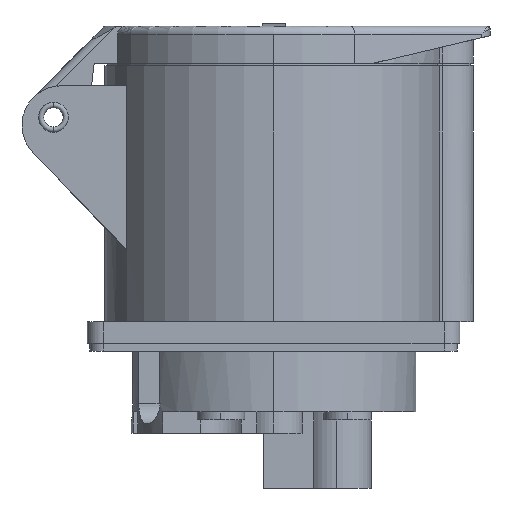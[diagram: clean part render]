
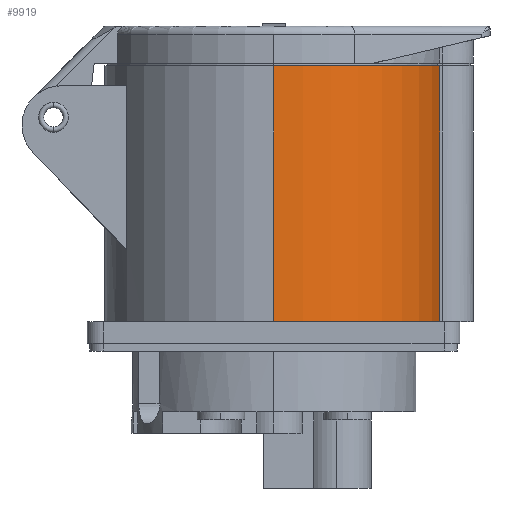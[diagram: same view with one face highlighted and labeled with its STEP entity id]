
A CAD part, left-side view. The second image highlights one B-rep face of the part: STEP entity #9919.
In plain terms, the highlighted cylindrical face has radius 32 mm (diameter 64 mm), a partial arc.
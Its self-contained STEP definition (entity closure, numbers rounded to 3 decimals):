
#323 = FACE_OUTER_BOUND ( 'NONE', #10646, .T. ) ;
#347 = CYLINDRICAL_SURFACE ( 'NONE', #411, 32. ) ;
#411 = AXIS2_PLACEMENT_3D ( 'NONE', #5221, #5222, #5223 ) ;
#2843 = CARTESIAN_POINT ( 'NONE',  ( -5.8, -31.47, 4.1 ) ) ;
#2844 = CARTESIAN_POINT ( 'NONE',  ( -5.8, -31.47, 52.6 ) ) ;
#2845 = CARTESIAN_POINT ( 'NONE',  ( -32., 0., 4.1 ) ) ;
#2847 = CARTESIAN_POINT ( 'NONE',  ( -32., 0., 52.6 ) ) ;
#3626 = VECTOR ( 'NONE', #6024, 1000. ) ;
#3630 = AXIS2_PLACEMENT_3D ( 'NONE', #6018, #6019, #6020 ) ;
#3632 = VECTOR ( 'NONE', #6015, 1000. ) ;
#3634 = AXIS2_PLACEMENT_3D ( 'NONE', #6009, #6016, #6017 ) ;
#4132 = EDGE_CURVE ( 'NONE', #13660, #13659, #6013, .T. ) ;
#4133 = EDGE_CURVE ( 'NONE', #13661, #13659, #4577, .T. ) ;
#4134 = EDGE_CURVE ( 'NONE', #13663, #13660, #4578, .T. ) ;
#4135 = EDGE_CURVE ( 'NONE', #13663, #13661, #6022, .T. ) ;
#4577 = CIRCLE ( 'NONE', #3634, 32. ) ;
#4578 = CIRCLE ( 'NONE', #3630, 32. ) ;
#5221 = CARTESIAN_POINT ( 'NONE',  ( 0., 0., 52.6 ) ) ;
#5222 = DIRECTION ( 'NONE',  ( 0., 0., -1. ) ) ;
#5223 = DIRECTION ( 'NONE',  ( -1., 0., 0. ) ) ;
#6009 = CARTESIAN_POINT ( 'NONE',  ( 0., 0., 4.1 ) ) ;
#6013 = LINE ( 'NONE', #6014, #3632 ) ;
#6014 = CARTESIAN_POINT ( 'NONE',  ( -5.8, -31.47, 52.6 ) ) ;
#6015 = DIRECTION ( 'NONE',  ( 0., 0., -1. ) ) ;
#6016 = DIRECTION ( 'NONE',  ( 0., 0., 1. ) ) ;
#6017 = DIRECTION ( 'NONE',  ( 1., 0., 0. ) ) ;
#6018 = CARTESIAN_POINT ( 'NONE',  ( 0., 0., 52.6 ) ) ;
#6019 = DIRECTION ( 'NONE',  ( 0., 0., 1. ) ) ;
#6020 = DIRECTION ( 'NONE',  ( 1., 0., 0. ) ) ;
#6022 = LINE ( 'NONE', #6023, #3626 ) ;
#6023 = CARTESIAN_POINT ( 'NONE',  ( -32., 0., 52.6 ) ) ;
#6024 = DIRECTION ( 'NONE',  ( 0., 0., -1. ) ) ;
#9919 = ADVANCED_FACE ( 'NONE', ( #323 ), #347, .T. ) ;
#10646 = EDGE_LOOP ( 'NONE', ( #11928, #11926, #11927, #11924 ) ) ;
#11924 = ORIENTED_EDGE ( 'NONE', *, *, #4132, .F. ) ;
#11926 = ORIENTED_EDGE ( 'NONE', *, *, #4135, .T. ) ;
#11927 = ORIENTED_EDGE ( 'NONE', *, *, #4133, .T. ) ;
#11928 = ORIENTED_EDGE ( 'NONE', *, *, #4134, .F. ) ;
#13659 = VERTEX_POINT ( 'NONE', #2843 ) ;
#13660 = VERTEX_POINT ( 'NONE', #2844 ) ;
#13661 = VERTEX_POINT ( 'NONE', #2845 ) ;
#13663 = VERTEX_POINT ( 'NONE', #2847 ) ;
